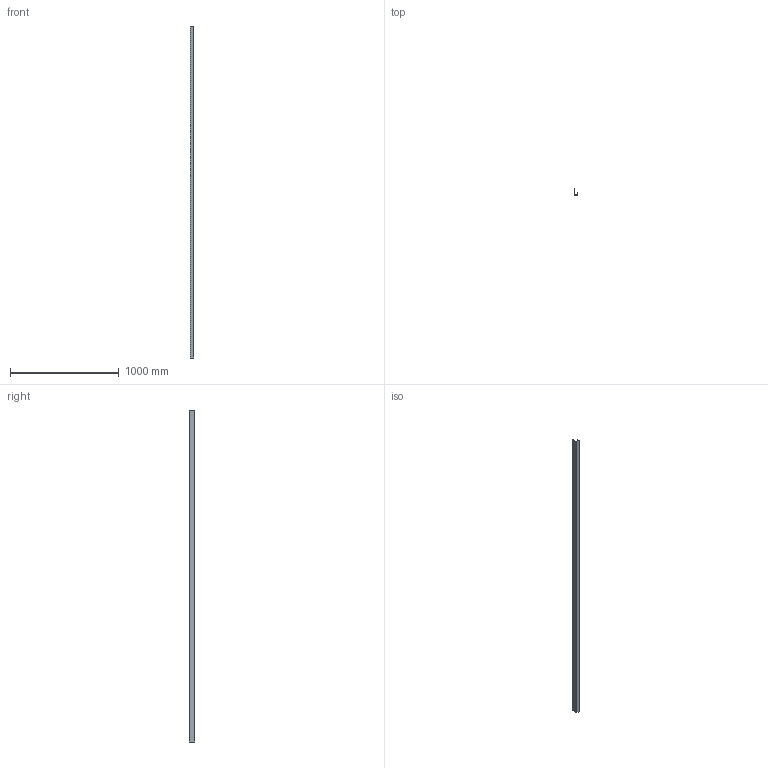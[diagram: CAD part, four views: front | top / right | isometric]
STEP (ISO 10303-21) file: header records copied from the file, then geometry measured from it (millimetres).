
FILE_DESCRIPTION (( 'STEP AP203' ), '1' );
FILE_NAME ('M01A.STEP', '2018-06-15T20:56:11', ( 'Michael Moliner' ), ( '' ), 'SwSTEP 2.0', 'SolidWorks 2018', '' );
FILE_SCHEMA (( 'CONFIG_CONTROL_DESIGN' ));
Length unit declared in the file: inch
Products named in the file (2): M01A
Bounding box: 31.62 x 53.98 x 3048 mm (x, y, z)
Volume: 189976.6 mm3; surface area: 751160.9 mm2
Topology: 1 solids, 1 shells, 18 faces, 48 edges, 32 vertices
Faces by surface type: plane 12, cylinder 6
Entity records: 721 total; most frequent: CARTESIAN_POINT 100, DIRECTION 100, ORIENTED_EDGE 96, EDGE_CURVE 48, VECTOR 36, LINE 36, AXIS2_PLACEMENT_3D 32, VERTEX_POINT 32
